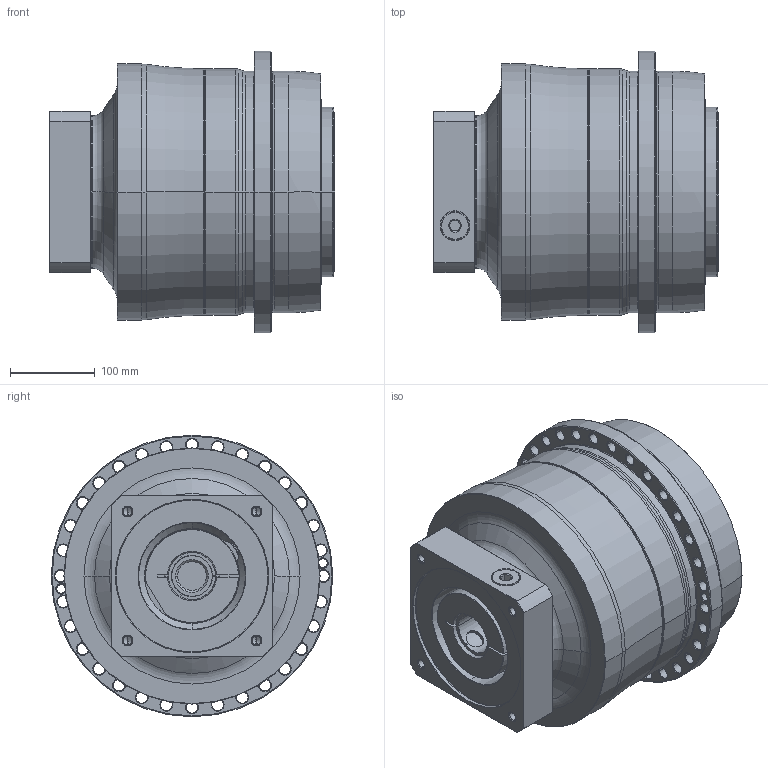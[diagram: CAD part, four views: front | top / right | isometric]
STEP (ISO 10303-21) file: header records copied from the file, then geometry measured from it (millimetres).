
FILE_DESCRIPTION((''),'2;1');
FILE_NAME('AP285_2ST_48-P0409B10201_ASM','2018-12-13T',('d01226'),(''),'PRO/ENGINEER BY PARAMETRIC TECHNOLOGY CORPORATION, 2015240','PRO/ENGINEER BY PARAMETRIC TECHNOLOGY CORPORATION, 2015240','');
FILE_SCHEMA(('CONFIG_CONTROL_DESIGN'));
Length unit declared in the file: millimetre
Products named in the file (9): P0278801003; P0359801103; P1317810301; P0503B00016; P0912753001; P1211800001; P0409B10201; 21711426021; AP285_2ST_48-P0409B10201_ASM
Assembly tree (8 placements, depth 2):
  AP285_2ST_48-P0409B10201_ASM
    P0278801003
    P0359801103
    P1317810301
    P0503B00016
    P0912753001
    P1211800001
    P0409B10201
    21711426021
Bounding box: 336.5 x 332 x 332 mm (x, y, z)
Volume: 17407292.6 mm3; surface area: 1039512.6 mm2
Topology: 9 solids, 32 shells, 679 faces, 1577 edges, 960 vertices
Faces by surface type: cylinder 273, cone 216, plane 100, torus 74, bspline 16
Entity records: 24611 total; most frequent: CARTESIAN_POINT 8297, DIRECTION 3753, ORIENTED_EDGE 3044, AXIS2_PLACEMENT_3D 1600, EDGE_CURVE 1569, VERTEX_POINT 960, CIRCLE 908, EDGE_LOOP 839
